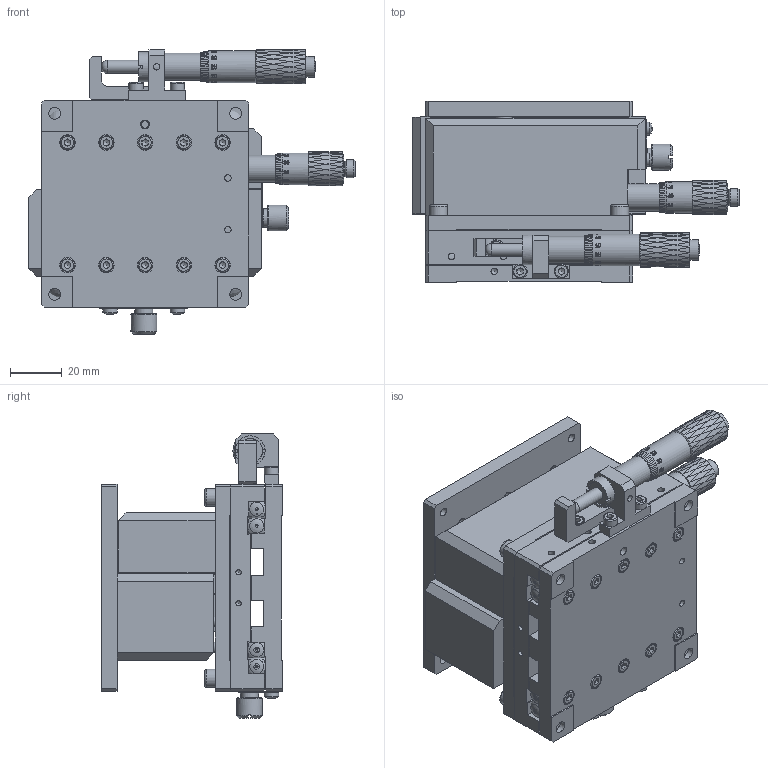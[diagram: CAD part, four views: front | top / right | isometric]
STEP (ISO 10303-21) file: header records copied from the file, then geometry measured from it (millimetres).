
FILE_DESCRIPTION (( 'STEP AP203' ), '1' );
FILE_NAME ('BLE80.STEP', '2024-07-27T06:17:41', ( 'Windows User' ), ( 'P R C' ), 'SwSTEP 2.0', 'SolidWorks 2024', '' );
FILE_SCHEMA (( 'CONFIG_CONTROL_DESIGN' ));
Products named in the file (1): BLE80
Bounding box: 126.27 x 70 x 110.15 mm (x, y, z)
Volume: 335342.3 mm3; surface area: 157231.7 mm2
Topology: 76 solids, 76 shells, 3492 faces, 8542 edges, 5477 vertices
Faces by surface type: plane 1392, bspline 961, cylinder 678, cone 394, torus 56, sphere 11
Full cylindrical faces by diameter (mm): 2.05 x7, 2.5 x35, 2.55 x20, 2.6 x2, 2.9 x1, 2.95 x18, 3 x38, 3.1 x2, 3.2 x2, 3.3 x43, 3.4 x23, 4 x15, 4.4 x20, 4.5 x18, 5 x9, 5.1 x1, 5.5 x29, 5.6 x2, 5.8 x2, 6 x29, 6.05 x1, 7 x17, 7.5 x5, 8 x14, 8.1 x1, 8.156 x4, 8.5 x2, 9 x1, 9.5 x4, 10 x2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
Entity records: 171599 total; most frequent: CARTESIAN_POINT 102081, ORIENTED_EDGE 15364, DIRECTION 10714, EDGE_CURVE 7682, VERTEX_POINT 5258, EDGE_LOOP 4676, AXIS2_PLACEMENT_3D 4091, FACE_OUTER_BOUND 3886
